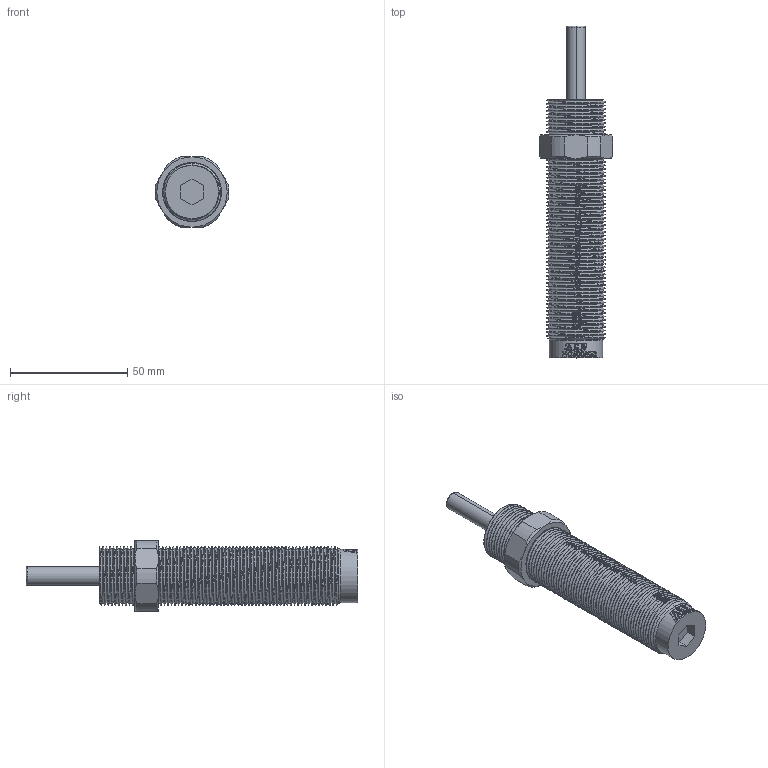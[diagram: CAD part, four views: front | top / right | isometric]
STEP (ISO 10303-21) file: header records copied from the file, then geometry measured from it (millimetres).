
FILE_DESCRIPTION (( 'STEP AP203' ), '1' );
FILE_NAME ('MC600M-原始檔-組合件-W103.08.22.STEP', '2019-02-26T00:30:21', ( 'DanyaoCAD' ), ( '' ), 'SwSTEP 2.0', 'SolidWorks 2016', '' );
FILE_SCHEMA (( 'CONFIG_CONTROL_DESIGN' ));
Products named in the file (4): MC600M-本體-W103.08.18; MC600M-軸心-97-01-22-S; A  250-9560M-M25螺帽-97-01-22-S; MC600M-原始檔-組合件-W103.08.22
Assembly tree (3 placements, depth 2):
  MC600M-原始檔-組合件-W103.08.22
    MC600M-本體-W103.08.18
    MC600M-軸心-97-01-22-S
    A  250-9560M-M25螺帽-97-01-22-S
Bounding box: 31.53 x 141.7 x 30 mm (x, y, z)
Volume: 51438.7 mm3; surface area: 23629 mm2
Topology: 3 solids, 3 shells, 2096 faces, 6095 edges, 4058 vertices
Faces by surface type: bspline 1410, plane 406, cylinder 264, cone 14, torus 2
Entity records: 532478 total; most frequent: CARTESIAN_POINT 489528, ORIENTED_EDGE 12190, EDGE_CURVE 6095, VERTEX_POINT 4058, DIRECTION 3633, B_SPLINE_CURVE_WITH_KNOTS 3368, EDGE_LOOP 2151, ADVANCED_FACE 2096
